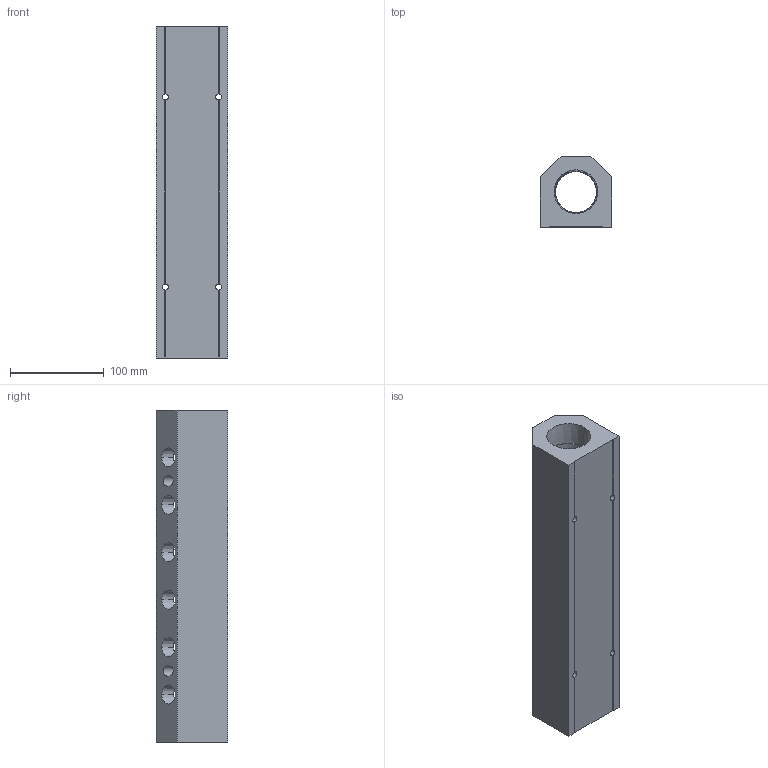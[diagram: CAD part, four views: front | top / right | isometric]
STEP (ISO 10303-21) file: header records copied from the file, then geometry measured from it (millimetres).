
FILE_DESCRIPTION (( 'STEP AP214' ), '1' );
FILE_NAME ('ALM6BCD-N8N24-355R.step', '2022-02-07T09:23:27', ( '' ), ( '' ), 'SwSTEP 2.0', 'SolidWorks 2020', '' );
FILE_SCHEMA (( 'AUTOMOTIVE_DESIGN' ));
Length unit declared in the file: millimetre
Products named in the file (1): ALM6BCD-N8N24-355R
Bounding box: 76.2 x 76.2 x 355 mm (x, y, z)
Volume: 1225139.7 mm3; surface area: 169441.7 mm2
Topology: 1 solids, 1 shells, 358 faces, 991 edges, 658 vertices
Faces by surface type: plane 208, bspline 92, cone 40, cylinder 18
Entity records: 22009 total; most frequent: CARTESIAN_POINT 10096, ORIENTED_EDGE 1982, DIRECTION 1325, EDGE_CURVE 991, VERTEX_POINT 658, LINE 647, VECTOR 647, EDGE_LOOP 427
